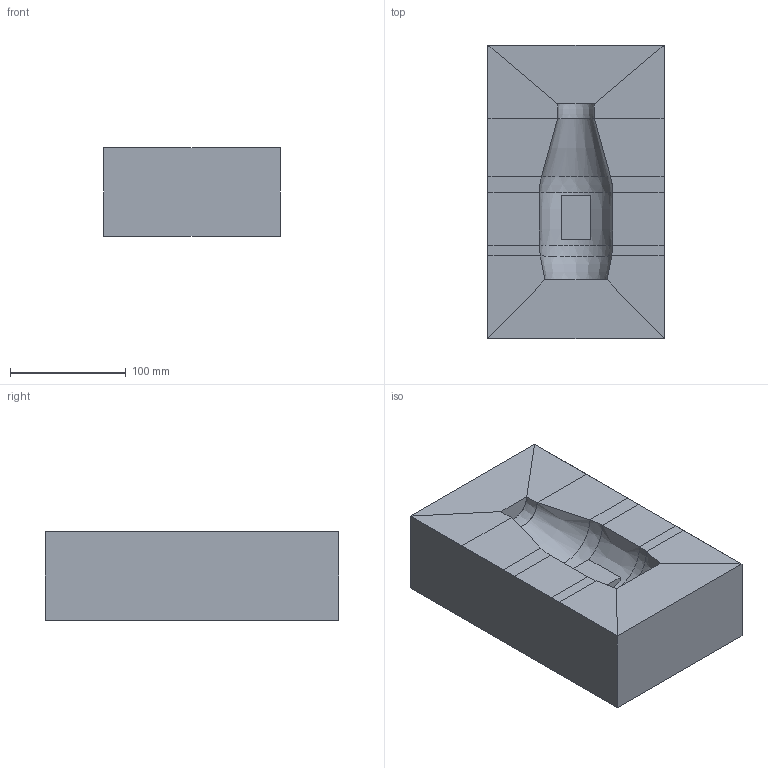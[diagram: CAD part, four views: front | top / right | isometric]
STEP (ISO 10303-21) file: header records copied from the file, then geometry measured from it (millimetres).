
FILE_DESCRIPTION((''),'2;1');
FILE_NAME('D:\temp\cavity.stp','2015-02-18T09:56:40',(''),(''),'txdsmartcam v7.22.1.3 (build 20120229.154612)','SmartCAM','');
FILE_SCHEMA(('AUTOMOTIVE_DESIGN { 1 0 10303 214 1 1 1 1 }'));
Length unit declared in the file: inch
Bounding box: 152.4 x 254 x 76.2 mm (x, y, z)
Surface area: 108608.1 mm2 (no closed solid volume)
Topology: 0 solids, 31 shells, 31 faces, 197 edges, 326 vertices
Faces by surface type: bspline 31
Entity records: 2562 total; most frequent: CARTESIAN_POINT 1061, STYLED_ITEM 477, VERTEX_POINT 120, EDGE_CURVE 120, ORIENTED_EDGE 120, QUASI_UNIFORM_CURVE 100, DIRECTION 81, TRIMMED_CURVE 71
